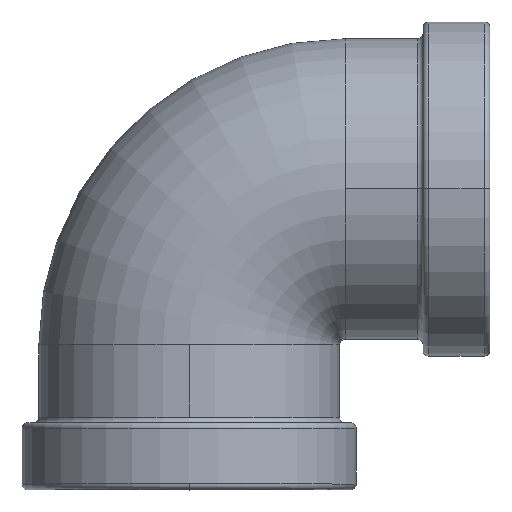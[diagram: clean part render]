
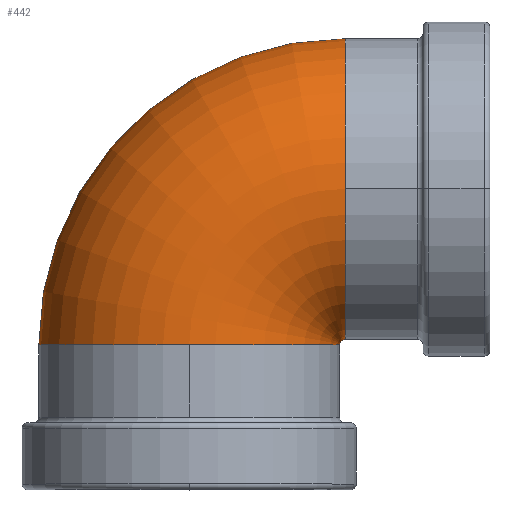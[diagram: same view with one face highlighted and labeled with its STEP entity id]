
A CAD part, top view. The second image highlights one B-rep face of the part: STEP entity #442.
In plain terms, the highlighted toroidal (fillet/blend) face has major radius 14 mm and minor radius 13.5 mm.
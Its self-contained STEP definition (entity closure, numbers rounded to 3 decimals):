
#133 = DIRECTION ( 'NONE',  ( -1., 0., 0. ) ) ;
#217 = EDGE_CURVE ( 'NONE', #1015, #338, #9024, .T. ) ;
#338 = VERTEX_POINT ( 'NONE', #4513 ) ;
#442 = ADVANCED_FACE ( 'NONE', ( #551 ), #2522, .T. ) ;
#444 = ORIENTED_EDGE ( 'NONE', *, *, #217, .T. ) ;
#551 = FACE_OUTER_BOUND ( 'NONE', #4992, .T. ) ;
#1015 = VERTEX_POINT ( 'NONE', #6897 ) ;
#1024 = CARTESIAN_POINT ( 'NONE',  ( 14., 40.5, 0. ) ) ;
#1148 = ORIENTED_EDGE ( 'NONE', *, *, #9858, .F. ) ;
#1637 = ORIENTED_EDGE ( 'NONE', *, *, #7539, .F. ) ;
#1663 = DIRECTION ( 'NONE',  ( 0., 0., 1. ) ) ;
#1742 = CIRCLE ( 'NONE', #3031, 0.5 ) ;
#2085 = AXIS2_PLACEMENT_3D ( 'NONE', #8509, #9977, #9131 ) ;
#2240 = VERTEX_POINT ( 'NONE', #9332 ) ;
#2284 = DIRECTION ( 'NONE',  ( -1., 0., 0. ) ) ;
#2356 = AXIS2_PLACEMENT_3D ( 'NONE', #7113, #4766, #7929 ) ;
#2522 = TOROIDAL_SURFACE ( 'NONE', #3635, 14., 13.5 ) ;
#2728 = CIRCLE ( 'NONE', #2085, 13.5 ) ;
#2755 = AXIS2_PLACEMENT_3D ( 'NONE', #8101, #3999, #133 ) ;
#2835 = DIRECTION ( 'NONE',  ( 0., 0., -1. ) ) ;
#2885 = DIRECTION ( 'NONE',  ( -1., 0., 0. ) ) ;
#3031 = AXIS2_PLACEMENT_3D ( 'NONE', #3345, #6453, #2284 ) ;
#3345 = CARTESIAN_POINT ( 'NONE',  ( 14., 13., 0. ) ) ;
#3561 = ORIENTED_EDGE ( 'NONE', *, *, #4755, .T. ) ;
#3635 = AXIS2_PLACEMENT_3D ( 'NONE', #9811, #2835, #2885 ) ;
#3824 = VERTEX_POINT ( 'NONE', #1024 ) ;
#3905 = CARTESIAN_POINT ( 'NONE',  ( 0., 13., 0. ) ) ;
#3999 = DIRECTION ( 'NONE',  ( 0., 0., -1. ) ) ;
#4178 = DIRECTION ( 'NONE',  ( 1., 0., 0. ) ) ;
#4373 = AXIS2_PLACEMENT_3D ( 'NONE', #8040, #4178, #7274 ) ;
#4475 = ORIENTED_EDGE ( 'NONE', *, *, #7190, .F. ) ;
#4513 = CARTESIAN_POINT ( 'NONE',  ( 0., 13., 13.5 ) ) ;
#4755 = EDGE_CURVE ( 'NONE', #2240, #9030, #1742, .T. ) ;
#4766 = DIRECTION ( 'NONE',  ( 0., 1., 0. ) ) ;
#4992 = EDGE_LOOP ( 'NONE', ( #4475, #444, #7495, #3561, #1148, #1637 ) ) ;
#5566 = CARTESIAN_POINT ( 'NONE',  ( 14., 27., 13.5 ) ) ;
#6369 = EDGE_CURVE ( 'NONE', #338, #2240, #7475, .T. ) ;
#6453 = DIRECTION ( 'NONE',  ( 0., 0., -1. ) ) ;
#6490 = AXIS2_PLACEMENT_3D ( 'NONE', #3905, #9463, #1663 ) ;
#6497 = CARTESIAN_POINT ( 'NONE',  ( 14., 13.5, 0. ) ) ;
#6897 = CARTESIAN_POINT ( 'NONE',  ( -13.5, 13., 0. ) ) ;
#7113 = CARTESIAN_POINT ( 'NONE',  ( 0., 13., 0. ) ) ;
#7190 = EDGE_CURVE ( 'NONE', #1015, #3824, #7802, .T. ) ;
#7274 = DIRECTION ( 'NONE',  ( 0., 0., 1. ) ) ;
#7475 = CIRCLE ( 'NONE', #6490, 13.5 ) ;
#7495 = ORIENTED_EDGE ( 'NONE', *, *, #6369, .T. ) ;
#7539 = EDGE_CURVE ( 'NONE', #3824, #7909, #9103, .T. ) ;
#7802 = CIRCLE ( 'NONE', #2755, 27.5 ) ;
#7909 = VERTEX_POINT ( 'NONE', #5566 ) ;
#7929 = DIRECTION ( 'NONE',  ( 0., 0., 1. ) ) ;
#8040 = CARTESIAN_POINT ( 'NONE',  ( 14., 27., 0. ) ) ;
#8101 = CARTESIAN_POINT ( 'NONE',  ( 14., 13., 0. ) ) ;
#8509 = CARTESIAN_POINT ( 'NONE',  ( 14., 27., 0. ) ) ;
#9024 = CIRCLE ( 'NONE', #2356, 13.5 ) ;
#9030 = VERTEX_POINT ( 'NONE', #6497 ) ;
#9103 = CIRCLE ( 'NONE', #4373, 13.5 ) ;
#9131 = DIRECTION ( 'NONE',  ( 0., 0., 1. ) ) ;
#9332 = CARTESIAN_POINT ( 'NONE',  ( 13.5, 13., 0. ) ) ;
#9463 = DIRECTION ( 'NONE',  ( 0., 1., 0. ) ) ;
#9811 = CARTESIAN_POINT ( 'NONE',  ( 14., 13., 0. ) ) ;
#9858 = EDGE_CURVE ( 'NONE', #7909, #9030, #2728, .T. ) ;
#9977 = DIRECTION ( 'NONE',  ( 1., 0., 0. ) ) ;
